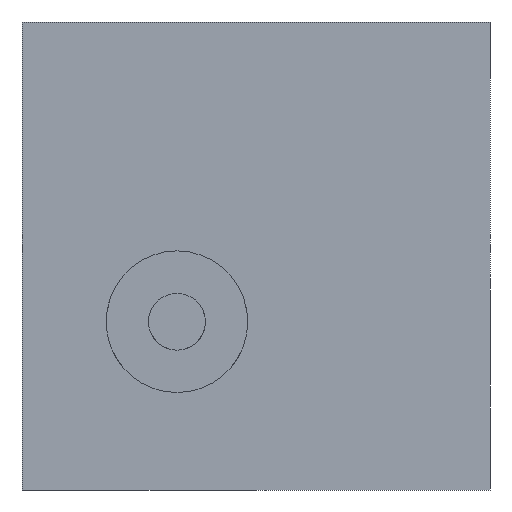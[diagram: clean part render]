
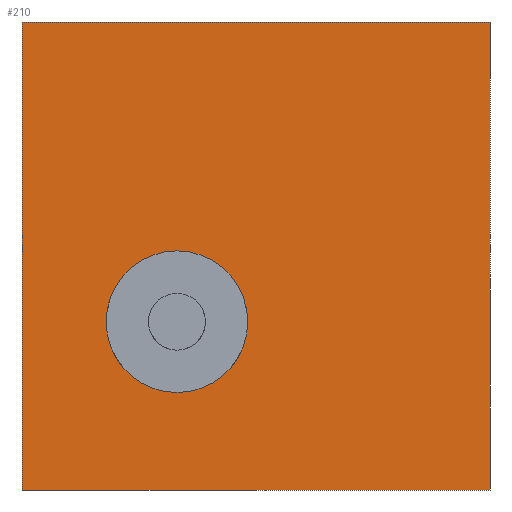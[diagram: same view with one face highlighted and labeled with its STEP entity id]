
A CAD part, left-side view. The second image highlights one B-rep face of the part: STEP entity #210.
In plain terms, the highlighted planar face has unit normal (-1, 0, 0).
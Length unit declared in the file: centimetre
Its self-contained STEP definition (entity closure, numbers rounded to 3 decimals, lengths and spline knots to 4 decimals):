
#4 = EDGE_CURVE ( 'NONE', #515, #147, #448, .T. ) ;
#15 = LINE ( 'NONE', #190, #287 ) ;
#16 = CARTESIAN_POINT ( 'NONE',  ( 0., 1000., 1000. ) ) ;
#83 = ORIENTED_EDGE ( 'NONE', *, *, #923, .F. ) ;
#88 = EDGE_LOOP ( 'NONE', ( #305, #301, #720, #423 ) ) ;
#89 = CARTESIAN_POINT ( 'NONE',  ( 0., 0., 1000. ) ) ;
#91 = LINE ( 'NONE', #261, #494 ) ;
#110 = DIRECTION ( 'NONE',  ( 0., 0., -1. ) ) ;
#114 = AXIS2_PLACEMENT_3D ( 'NONE', #450, #446, #219 ) ;
#147 = VERTEX_POINT ( 'NONE', #785 ) ;
#149 = AXIS2_PLACEMENT_3D ( 'NONE', #577, #752, #172 ) ;
#166 = DIRECTION ( 'NONE',  ( 0., -1., 0. ) ) ;
#171 = EDGE_CURVE ( 'NONE', #147, #1091, #676, .T. ) ;
#172 = DIRECTION ( 'NONE',  ( 0., 0., -1. ) ) ;
#190 = CARTESIAN_POINT ( 'NONE',  ( 0., 0., 1000. ) ) ;
#210 = ADVANCED_FACE ( 'NONE', ( #335, #241 ), #664, .F. ) ;
#219 = DIRECTION ( 'NONE',  ( 0., 0., 1. ) ) ;
#240 = EDGE_CURVE ( 'NONE', #710, #1042, #426, .T. ) ;
#241 = FACE_OUTER_BOUND ( 'NONE', #88, .T. ) ;
#249 = VERTEX_POINT ( 'NONE', #89 ) ;
#250 = CARTESIAN_POINT ( 'NONE',  ( 0., 668.8514, 359.576 ) ) ;
#261 = CARTESIAN_POINT ( 'NONE',  ( 0., 1000., 1000. ) ) ;
#281 = EDGE_CURVE ( 'NONE', #249, #1091, #15, .T. ) ;
#287 = VECTOR ( 'NONE', #110, 100. ) ;
#301 = ORIENTED_EDGE ( 'NONE', *, *, #281, .F. ) ;
#305 = ORIENTED_EDGE ( 'NONE', *, *, #171, .T. ) ;
#335 = FACE_BOUND ( 'NONE', #932, .T. ) ;
#357 = VECTOR ( 'NONE', #387, 100. ) ;
#387 = DIRECTION ( 'NONE',  ( 0., 0., -1. ) ) ;
#399 = CARTESIAN_POINT ( 'NONE',  ( 0., 1000., 1000. ) ) ;
#423 = ORIENTED_EDGE ( 'NONE', *, *, #4, .T. ) ;
#426 = CIRCLE ( 'NONE', #723, 151.3234 ) ;
#446 = DIRECTION ( 'NONE',  ( -1., 0., 0. ) ) ;
#448 = LINE ( 'NONE', #16, #357 ) ;
#450 = CARTESIAN_POINT ( 'NONE',  ( 0., 668.8514, 359.576 ) ) ;
#453 = EDGE_CURVE ( 'NONE', #515, #249, #91, .T. ) ;
#494 = VECTOR ( 'NONE', #864, 100. ) ;
#496 = DIRECTION ( 'NONE',  ( -1., 0., 0. ) ) ;
#515 = VERTEX_POINT ( 'NONE', #399 ) ;
#552 = CARTESIAN_POINT ( 'NONE',  ( 0., 0., 0. ) ) ;
#567 = VECTOR ( 'NONE', #166, 100. ) ;
#577 = CARTESIAN_POINT ( 'NONE',  ( 0., 1000., 1000. ) ) ;
#583 = CIRCLE ( 'NONE', #114, 151.3234 ) ;
#634 = CARTESIAN_POINT ( 'NONE',  ( 0., 668.8514, 510.8994 ) ) ;
#664 = PLANE ( 'NONE',  #149 ) ;
#676 = LINE ( 'NONE', #840, #567 ) ;
#710 = VERTEX_POINT ( 'NONE', #634 ) ;
#720 = ORIENTED_EDGE ( 'NONE', *, *, #453, .F. ) ;
#723 = AXIS2_PLACEMENT_3D ( 'NONE', #250, #496, #822 ) ;
#752 = DIRECTION ( 'NONE',  ( 1., 0., 0. ) ) ;
#785 = CARTESIAN_POINT ( 'NONE',  ( 0., 1000., 0. ) ) ;
#819 = ORIENTED_EDGE ( 'NONE', *, *, #240, .F. ) ;
#822 = DIRECTION ( 'NONE',  ( 0., 0., 1. ) ) ;
#840 = CARTESIAN_POINT ( 'NONE',  ( 0., 1000., 0. ) ) ;
#864 = DIRECTION ( 'NONE',  ( 0., -1., 0. ) ) ;
#923 = EDGE_CURVE ( 'NONE', #1042, #710, #583, .T. ) ;
#932 = EDGE_LOOP ( 'NONE', ( #819, #83 ) ) ;
#989 = CARTESIAN_POINT ( 'NONE',  ( 0., 668.8514, 208.2525 ) ) ;
#1042 = VERTEX_POINT ( 'NONE', #989 ) ;
#1091 = VERTEX_POINT ( 'NONE', #552 ) ;
